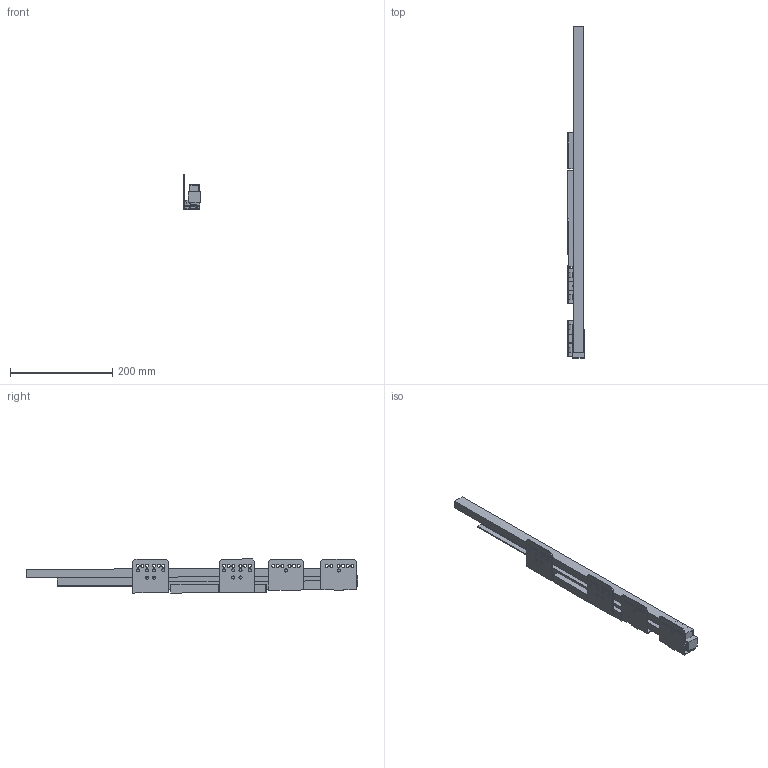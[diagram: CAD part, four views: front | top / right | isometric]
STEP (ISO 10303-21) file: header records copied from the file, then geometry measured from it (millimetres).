
FILE_DESCRIPTION (( 'STEP AP214' ), '1' );
FILE_NAME ('_IMOS Dynamic-XP VA 80kg NL650 LI.step', '2010-07-07T08:08:13', ( 'grass' ), ( '' ), 'SwSTEP 2.0', 'SolidWorks 2010', '' );
FILE_SCHEMA (( 'AUTOMOTIVE_DESIGN' ));
Length unit declared in the file: millimetre
Products named in the file (1): _IMOS Dynamic-XP VA 80kg NL650 LI
Bounding box: 32.79 x 649.89 x 66.67 mm (x, y, z)
Volume: 525800.9 mm3; surface area: 207048.1 mm2
Topology: 9 solids, 9 shells, 247 faces, 687 edges, 458 vertices
Faces by surface type: plane 167, cylinder 80
Entity records: 8167 total; most frequent: CARTESIAN_POINT 1393, ORIENTED_EDGE 1374, DIRECTION 1343, EDGE_CURVE 687, VECTOR 527, LINE 527, VERTEX_POINT 458, AXIS2_PLACEMENT_3D 408
